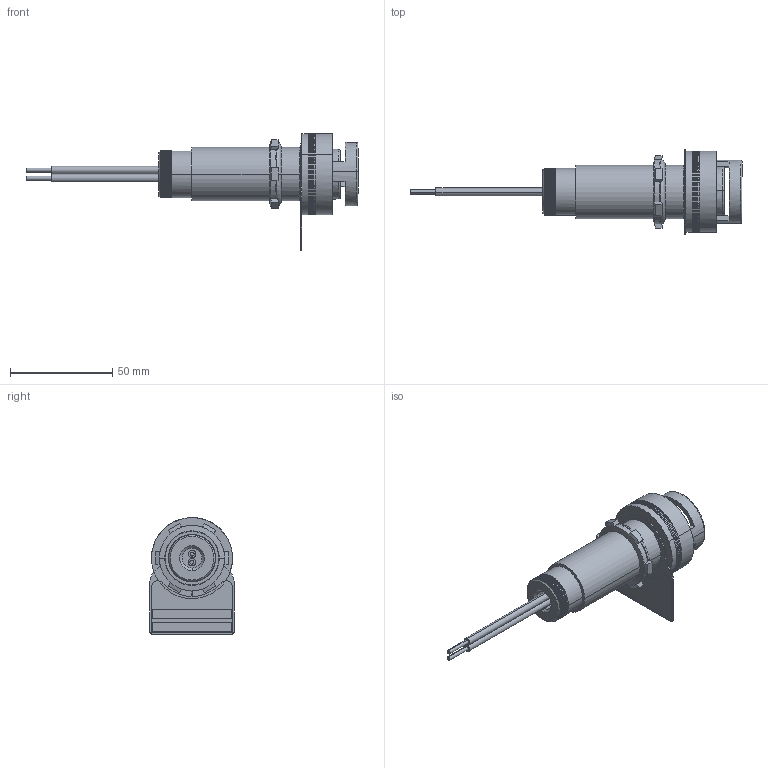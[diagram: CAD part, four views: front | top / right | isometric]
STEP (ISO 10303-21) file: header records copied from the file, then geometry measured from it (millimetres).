
FILE_DESCRIPTION (( 'STEP AP214' ), '1' );
FILE_NAME ('EPL-PL-LED-24V.STEP', '2023-02-22T21:02:48', ( '' ), ( '' ), 'SwSTEP 2.0', 'SolidWorks 2020', '' );
FILE_SCHEMA (( 'AUTOMOTIVE_DESIGN' ));
Length unit declared in the file: inch
Products named in the file (12): 0735025B; 0330150B; 17836AAAB; EPL-PL-LED-24V; 0560795B; 0343250B; 05607959 SEALING LOCKNUT GASKET; 462625; 0307180B; 309053; 17835AAAB; 548301
Assembly tree (12 placements, depth 2):
  EPL-PL-LED-24V
    17836AAAB
    0330150B
    17835AAAB
    462625
    0307180B  x2
    0343250B
    05607959 SEALING LOCKNUT GASKET
    0560795B
    548301
    309053
    0735025B
Bounding box: 162.36 x 41.27 x 57.12 mm (x, y, z)
Volume: 51500.7 mm3; surface area: 35093.8 mm2
Topology: 11 solids, 18 shells, 1378 faces, 3447 edges, 2266 vertices
Faces by surface type: plane 683, cylinder 311, bspline 290, cone 60, torus 22, sphere 12
Entity records: 49382 total; most frequent: CARTESIAN_POINT 17577, ORIENTED_EDGE 6628, DIRECTION 5969, EDGE_CURVE 3423, AXIS2_PLACEMENT_3D 2288, VERTEX_POINT 2250, EDGE_LOOP 1564, LINE 1393
